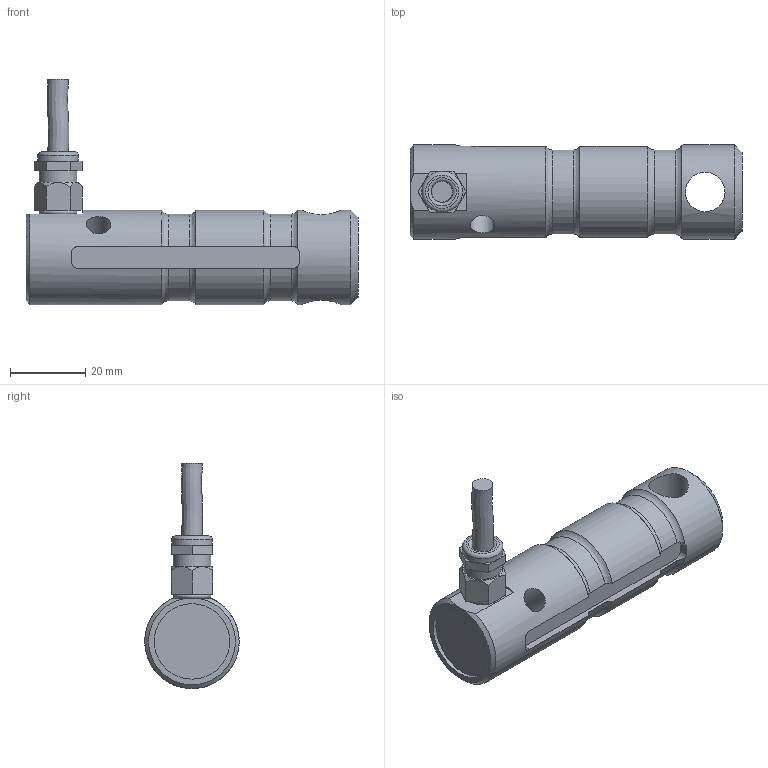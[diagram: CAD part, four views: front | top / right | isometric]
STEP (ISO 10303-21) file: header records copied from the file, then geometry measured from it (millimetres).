
FILE_DESCRIPTION(/* description */ ('Alibre Inc.'),/* implementation_level */ '2;1');
FILE_NAME(/* name */ 'export0',/* time_stamp */ '2012-07-19T10:12:10+02:00',/* author */ (''),/* organization */ (''),/* preprocessor_version */ 'ST-DEVELOPER v10',/* originating_system */ 'Alibre',/* authorisation */ '');
FILE_SCHEMA (('CONFIG_CONTROL_DESIGN'));
Length unit declared in the file: centimetre
Products named in the file (6): ID_1; ID_2; ID_3
Bounding box: 88 x 25 x 59.69 mm (x, y, z)
Volume: 38454.3 mm3; surface area: 11211 mm2
Topology: 4 solids, 4 shells, 79 faces, 194 edges, 127 vertices
Faces by surface type: plane 37, cylinder 25, torus 11, cone 5, bspline 1
Full cylindrical faces by diameter (mm): 5.5 x1, 6 x1, 6.5 x1, 6.917 x1, 8 x1, 10 x1, 10.5 x1, 10.8 x1, 20 x1, 25 x2
Entity records: 3343 total; most frequent: CARTESIAN_POINT 1124, ORIENTED_EDGE 338, DIRECTION 280, EDGE_CURVE 169, VERTEX_POINT 122, AXIS2_PLACEMENT_3D 122, FACE_BOUND 109, EDGE_LOOP 108
